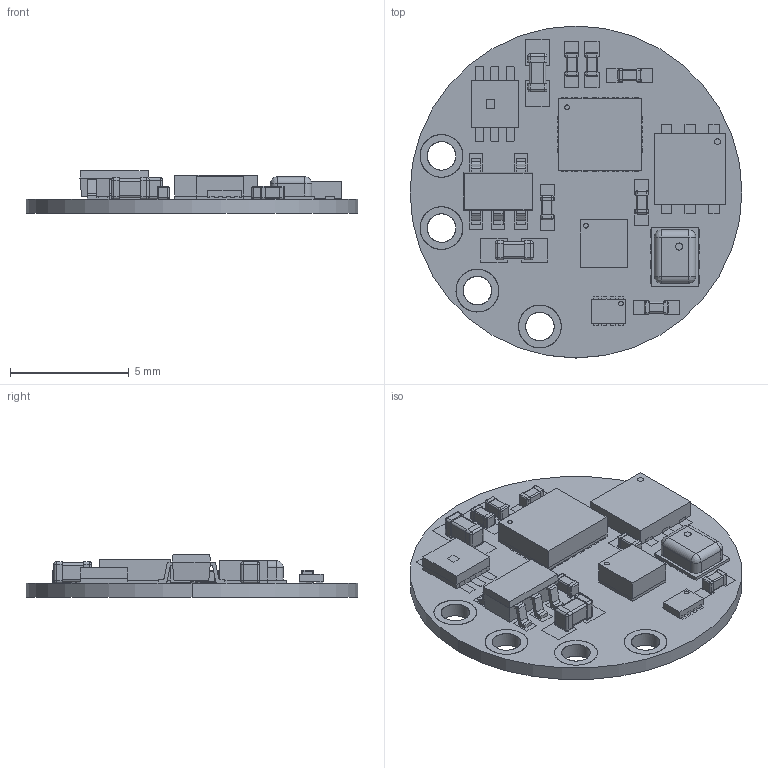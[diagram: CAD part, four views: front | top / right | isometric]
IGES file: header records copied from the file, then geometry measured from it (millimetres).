
Global section: file name: Filename.iges; native system: Open CASCADE 7.4; preprocessor: Open CASCADE IGES processor 7.4; date: 20200824.165535; units: millimetre
Bounding box: 14 x 14 x 1.8 mm (x, y, z)
Surface area: 1076 mm2 (no closed solid volume)
Topology: 0 solids, 0 shells, 2088 faces, 10736 edges, 15064 vertices
Faces by surface type: plane 1666, revolution 422
